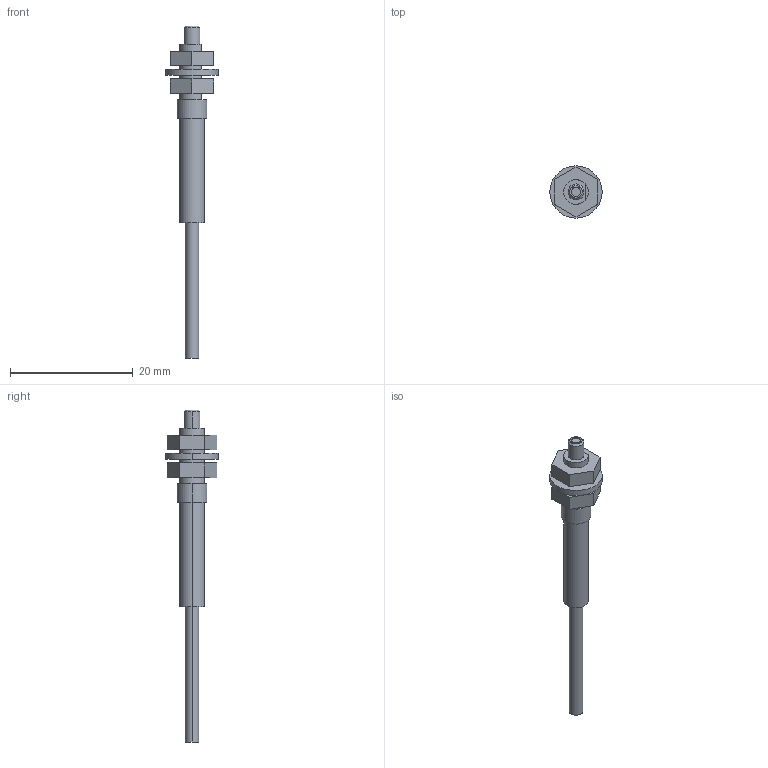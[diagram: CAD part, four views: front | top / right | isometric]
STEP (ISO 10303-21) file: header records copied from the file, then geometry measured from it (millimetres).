
FILE_DESCRIPTION (( 'STEP AP203' ), '1' );
FILE_NAME ('FT-B8.STEP', '2005-09-08T05:40:22', ( '' ), ( '' ), 'SwSTEP 2.0', 'SolidWorks 2004073', '' );
FILE_SCHEMA (( 'CONFIG_CONTROL_DESIGN' ));
Length unit declared in the file: millimetre
Products named in the file (1): FT-B8
Bounding box: 8.5 x 8.5 x 54 mm (x, y, z)
Volume: 659.4 mm3; surface area: 1005.2 mm2
Topology: 4 solids, 4 shells, 47 faces, 100 edges, 66 vertices
Faces by surface type: plane 26, cylinder 19, cone 2
Entity records: 1361 total; most frequent: DIRECTION 236, CARTESIAN_POINT 214, ORIENTED_EDGE 200, EDGE_CURVE 100, AXIS2_PLACEMENT_3D 88, VERTEX_POINT 66, VECTOR 60, LINE 60
